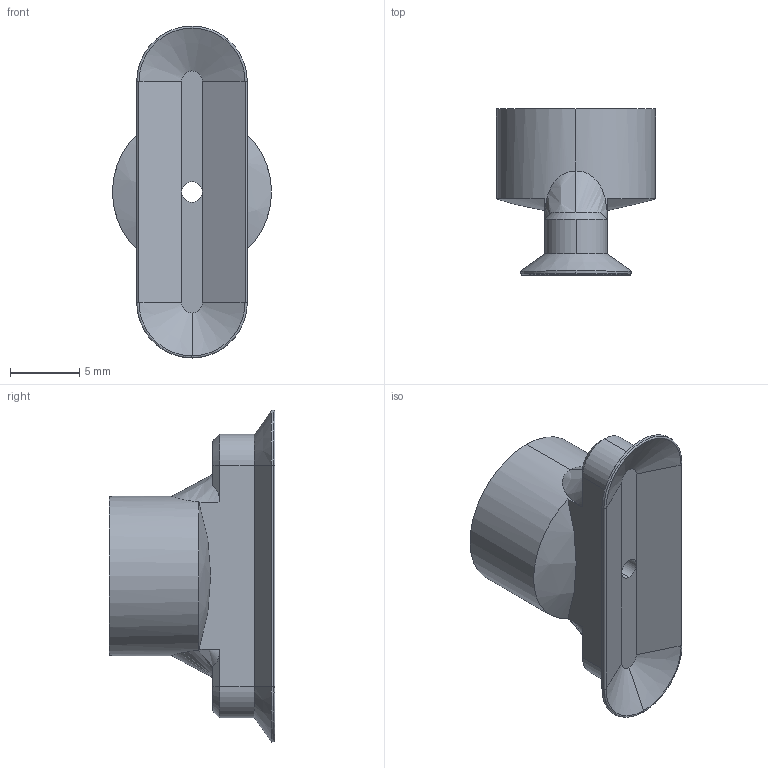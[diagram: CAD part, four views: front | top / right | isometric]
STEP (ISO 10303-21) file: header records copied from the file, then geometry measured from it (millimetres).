
FILE_DESCRIPTION (( 'STEP AP214' ), '1' );
FILE_NAME ('VS-PO824.STEP', '2019-11-13T09:11:01', ( '微软用户' ), ( '微软中国' ), 'SwSTEP 2.0', 'SolidWorks 2016', '' );
FILE_SCHEMA (( 'AUTOMOTIVE_DESIGN' ));
Length unit declared in the file: millimetre
Products named in the file (1): VS-PO824
Bounding box: 11.5 x 12 x 24 mm (x, y, z)
Volume: 900.4 mm3; surface area: 1055.2 mm2
Topology: 1 solids, 1 shells, 56 faces, 129 edges, 77 vertices
Faces by surface type: plane 20, cylinder 15, cone 12, bspline 9
Entity records: 1829 total; most frequent: CARTESIAN_POINT 557, DIRECTION 261, ORIENTED_EDGE 258, EDGE_CURVE 129, AXIS2_PLACEMENT_3D 99, VERTEX_POINT 77, LINE 63, VECTOR 63
